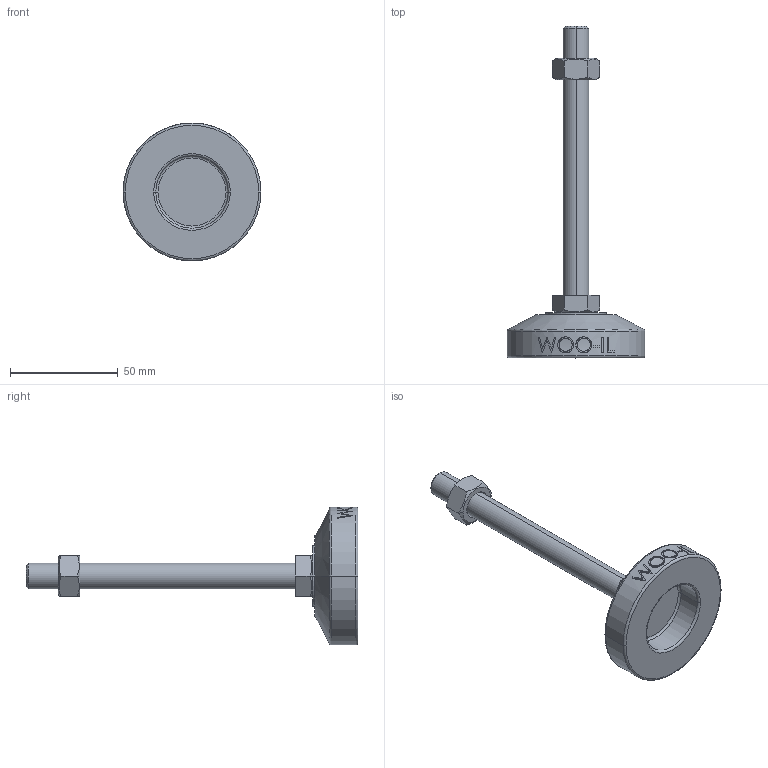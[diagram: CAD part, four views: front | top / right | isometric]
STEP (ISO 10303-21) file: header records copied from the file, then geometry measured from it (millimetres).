
FILE_DESCRIPTION (( 'STEP AP214' ), '1' );
FILE_NAME ('MFZ64-M12-125.step', '2021-01-15T07:05:20', ( '' ), ( '' ), 'SwSTEP 2.0', 'SolidWorks 2019', '' );
FILE_SCHEMA (( 'AUTOMOTIVE_DESIGN' ));
Length unit declared in the file: millimetre
Products named in the file (2): MFZ64-M12-125
Bounding box: 64 x 154 x 64 mm (x, y, z)
Volume: 64183 mm3; surface area: 17721.2 mm2
Topology: 3 solids, 3 shells, 106 faces, 243 edges, 154 vertices
Faces by surface type: plane 48, cylinder 18, bspline 16, cone 14, torus 10
Entity records: 4520 total; most frequent: CARTESIAN_POINT 2177, ORIENTED_EDGE 486, DIRECTION 439, EDGE_CURVE 243, AXIS2_PLACEMENT_3D 170, VERTEX_POINT 154, EDGE_LOOP 119, ADVANCED_FACE 106
